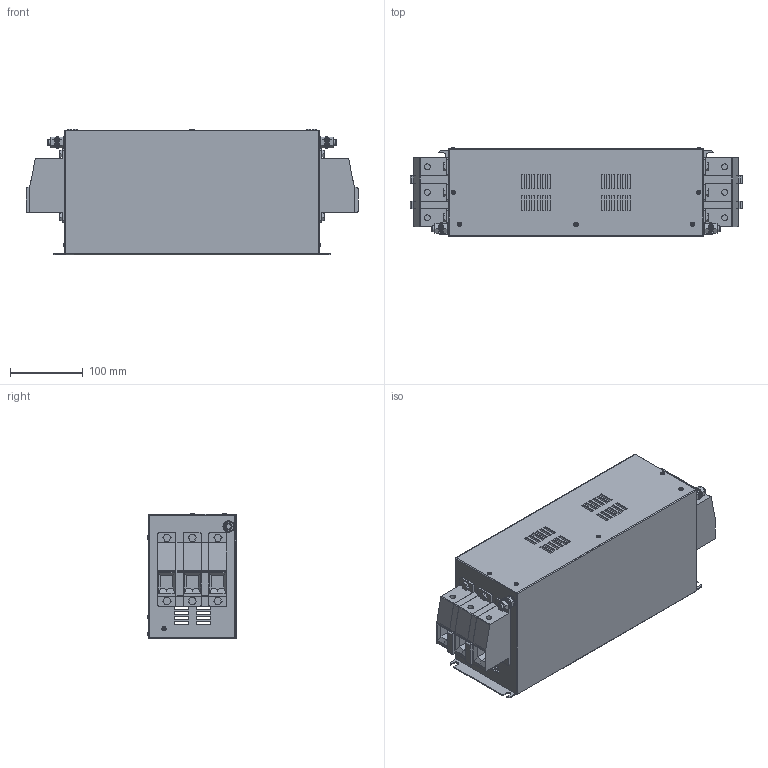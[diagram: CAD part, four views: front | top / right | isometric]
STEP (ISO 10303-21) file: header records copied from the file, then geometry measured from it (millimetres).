
FILE_DESCRIPTION(('STEP AP203'), '1');
FILE_NAME('栖闉罻 _ IEF-90_180-4', '', ('UNSPECIFIED'), ('UNSPECIFIED'), 'ASCON STEP Converter 1.6', 'ASCON Math Kernel', '');
FILE_SCHEMA(('CONFIG_CONTROL_DESIGN'));
Length unit declared in the file: millimetre
Products named in the file (9): IEF-90_180-4
Assembly tree (49 placements, depth 2):
  IEF-90_180-4
    IEF-90_180-4
    IEF-90_180-4  x14
    IEF-90_180-4  x6
    IEF-90_180-4  x4
    IEF-90_180-4  x6
    IEF-90_180-4  x2
    IEF-90_180-4  x4
    IEF-90_180-4  x12
Bounding box: 456 x 121 x 172 mm (x, y, z)
Volume: 973581.2 mm3; surface area: 637840.4 mm2
Topology: 49 solids, 49 shells, 1084 faces, 2566 edges, 1616 vertices
Faces by surface type: plane 866, cylinder 178, cone 22, torus 14, sphere 4
Full cylindrical faces by diameter (mm): 1.5 x14, 3 x28, 6 x36, 8 x20, 15 x2, 16 x6
Entity records: 13831 total; most frequent: CARTESIAN_POINT 2248, DIRECTION 2050, ORIENTED_EDGE 2046, EDGE_CURVE 1023, LINE 834, VECTOR 834, VERTEX_POINT 694, AXIS2_PLACEMENT_3D 608
